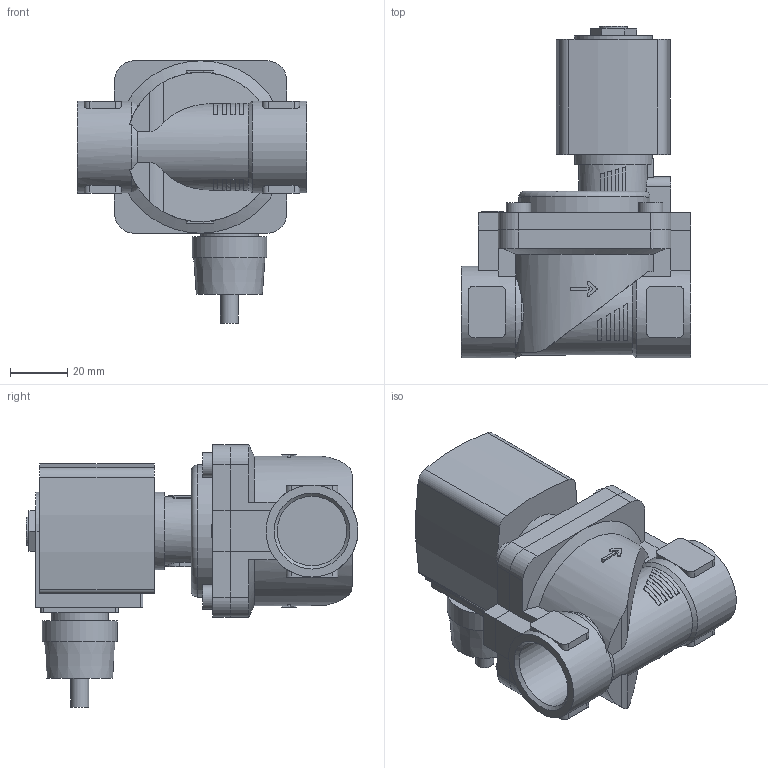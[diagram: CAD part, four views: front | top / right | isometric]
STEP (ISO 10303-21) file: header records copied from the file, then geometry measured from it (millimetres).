
FILE_DESCRIPTION(/* description */ ('STEP AP214'),/* implementation_level */ '2;1');
FILE_NAME(/* name */ '6281-370117-2_2-Way_Solenoid_Valve__Servo-assisted__General_Purpose',/* time_stamp */ '2024-08-20T21:19:08+02:00',/* author */ ('License CC BY-ND 4.0'),/* organization */ ('CADENAS'),/* preprocessor_version */ 'ST-DEVELOPER v19.3',/* originating_system */ 'PARTsolutions',/* authorisation */ ' ');
FILE_SCHEMA (('AUTOMOTIVE_DESIGN {1 0 10303 214 3 1 1}'));
Length unit declared in the file: millimetre
Products named in the file (4): 6281-370117-2/2-Way Solenoid Valve, Servo-assisted, General Purpose; 5281ev200MS2/2-Wege-Magnetventil mit Servomembran-Deckel   ; 6213-20G3/4MS-Gehaeuse-; AC10ex-6ATEXKabelPlan-Coil
Assembly tree (3 placements, depth 2):
  6281-370117-2/2-Way Solenoid Valve, Servo-assisted, General Purpose
    5281ev200MS2/2-Wege-Magnetventil mit Servomembran-Deckel   
    6213-20G3/4MS-Gehaeuse-
    AC10ex-6ATEXKabelPlan-Coil
Bounding box: 80 x 115.5 x 91.3 mm (x, y, z)
Volume: 230217.7 mm3; surface area: 46196.8 mm2
Topology: 3 solids, 3 shells, 291 faces, 744 edges, 491 vertices
Faces by surface type: plane 184, cylinder 91, cone 15, torus 1
Full cylindrical faces by diameter (mm): 6.2 x1, 8.5 x4, 9.74 x1, 20 x1, 24.117 x2, 26 x1, 27 x1, 32 x1
Entity records: 9805 total; most frequent: CARTESIAN_POINT 1754, DIRECTION 1496, ORIENTED_EDGE 1444, EDGE_CURVE 722, AXIS2_PLACEMENT_3D 544, VERTEX_POINT 484, LINE 408, VECTOR 408
